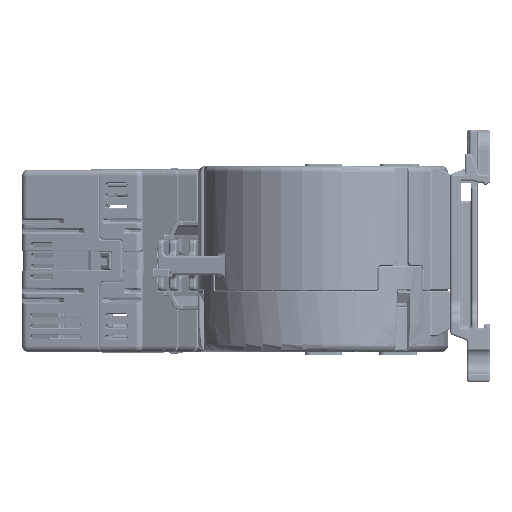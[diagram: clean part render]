
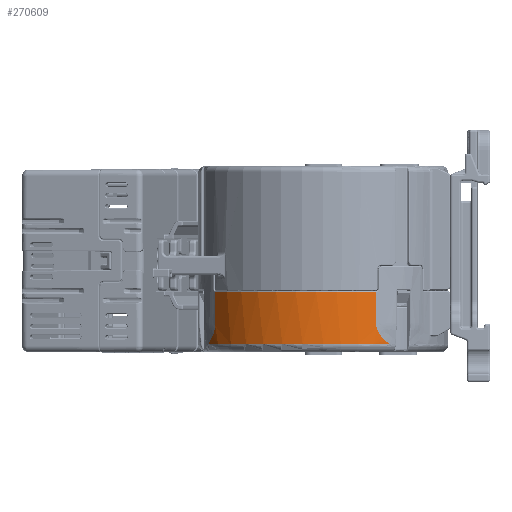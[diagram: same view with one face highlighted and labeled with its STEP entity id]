
A CAD part, left-side view. The second image highlights one B-rep face of the part: STEP entity #270609.
In plain terms, the highlighted cylindrical face has radius 30 mm (diameter 60 mm), a partial arc.
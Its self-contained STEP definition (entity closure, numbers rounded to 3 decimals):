
#4930 = CARTESIAN_POINT ( 'NONE',  ( -15.009, 25.976, -38.321 ) ) ;
#7404 = CARTESIAN_POINT ( 'NONE',  ( -13.726, 26.676, -40.948 ) ) ;
#17263 = CARTESIAN_POINT ( 'NONE',  ( -14.101, 26.48, -40.507 ) ) ;
#30631 = EDGE_CURVE ( 'NONE', #161591, #456532, #370813, .T. ) ;
#34933 = CARTESIAN_POINT ( 'NONE',  ( -15.041, 25.957, -37.708 ) ) ;
#46592 = CARTESIAN_POINT ( 'NONE',  ( -27.209, -12.636, -37.708 ) ) ;
#47827 = B_SPLINE_CURVE_WITH_KNOTS ( 'NONE', 3,
 ( #34933, #338886, #4930, #416231, #308891, #107264, #428459, #17263, #89488, #7404 ),
 .UNSPECIFIED., .F., .F.,
 ( 4, 2, 2, 2, 4 ),
 ( 0., 0.001, 0.002, 0.003, 0.004 ),
 .UNSPECIFIED. ) ;
#50574 = B_SPLINE_CURVE_WITH_KNOTS ( 'NONE', 3,
 ( #147166, #483496, #436993, #485975 ),
 .UNSPECIFIED., .F., .F.,
 ( 4, 4 ),
 ( 0., 0.003 ),
 .UNSPECIFIED. ) ;
#52996 = ORIENTED_EDGE ( 'NONE', *, *, #189924, .T. ) ;
#61115 = CARTESIAN_POINT ( 'NONE',  ( -27.209, -12.636, -38.016 ) ) ;
#66799 = AXIS2_PLACEMENT_3D ( 'NONE', #116479, #268415, #420449 ) ;
#77725 = CIRCLE ( 'NONE', #117337, 30. ) ;
#86989 = FACE_OUTER_BOUND ( 'NONE', #430764, .T. ) ;
#88600 = VERTEX_POINT ( 'NONE', #107544 ) ;
#89488 = CARTESIAN_POINT ( 'NONE',  ( -13.922, 26.575, -40.735 ) ) ;
#89705 = EDGE_CURVE ( 'NONE', #88600, #117583, #77725, .T. ) ;
#107264 = CARTESIAN_POINT ( 'NONE',  ( -14.564, 26.228, -39.754 ) ) ;
#107544 = CARTESIAN_POINT ( 'NONE',  ( -30., 0., -42.7 ) ) ;
#115147 = VECTOR ( 'NONE', #180609, 1000. ) ;
#116479 = CARTESIAN_POINT ( 'NONE',  ( 0., 0., -30.15 ) ) ;
#117337 = AXIS2_PLACEMENT_3D ( 'NONE', #420962, #231558, #383626 ) ;
#117583 = VERTEX_POINT ( 'NONE', #399868 ) ;
#128753 = CARTESIAN_POINT ( 'NONE',  ( -26.739, -13.603, -40.507 ) ) ;
#144190 = DIRECTION ( 'NONE',  ( 0., 0., 1. ) ) ;
#147166 = CARTESIAN_POINT ( 'NONE',  ( -25.447, -15.888, -42.7 ) ) ;
#153547 = CARTESIAN_POINT ( 'NONE',  ( -11.732, 27.611, -42.7 ) ) ;
#155625 = ORIENTED_EDGE ( 'NONE', *, *, #89705, .T. ) ;
#161591 = VERTEX_POINT ( 'NONE', #46592 ) ;
#169354 = DIRECTION ( 'NONE',  ( 1., 0., 0. ) ) ;
#170792 = LINE ( 'NONE', #215487, #115147 ) ;
#172752 = AXIS2_PLACEMENT_3D ( 'NONE', #174085, #325952, #478082 ) ;
#174085 = CARTESIAN_POINT ( 'NONE',  ( 0., 0., -44.7 ) ) ;
#178239 = CARTESIAN_POINT ( 'NONE',  ( -27.133, -12.798, -38.918 ) ) ;
#179253 = B_SPLINE_CURVE_WITH_KNOTS ( 'NONE', 3,
 ( #336452, #187153, #338908, #490966, #488506, #291635 ),
 .UNSPECIFIED., .F., .F.,
 ( 4, 2, 4 ),
 ( 0.013, 0.015, 0.016 ),
 .UNSPECIFIED. ) ;
#180346 = EDGE_CURVE ( 'NONE', #269363, #161591, #485685, .T. ) ;
#180609 = DIRECTION ( 'NONE',  ( 0., 0., -1. ) ) ;
#187153 = CARTESIAN_POINT ( 'NONE',  ( -13.425, 26.83, -41.273 ) ) ;
#189924 = EDGE_CURVE ( 'NONE', #387696, #88600, #440690, .T. ) ;
#194189 = AXIS2_PLACEMENT_3D ( 'NONE', #361206, #433551, #169354 ) ;
#197394 = ORIENTED_EDGE ( 'NONE', *, *, #239613, .T. ) ;
#206511 = VERTEX_POINT ( 'NONE', #384697 ) ;
#210751 = CARTESIAN_POINT ( 'NONE',  ( -27.209, -12.636, -37.708 ) ) ;
#215487 = CARTESIAN_POINT ( 'NONE',  ( -15.041, 25.957, -44.7 ) ) ;
#225699 = ORIENTED_EDGE ( 'NONE', *, *, #440911, .T. ) ;
#231558 = DIRECTION ( 'NONE',  ( 0., 0., 1. ) ) ;
#233086 = ORIENTED_EDGE ( 'NONE', *, *, #489803, .T. ) ;
#239613 = EDGE_CURVE ( 'NONE', #117583, #269363, #50574, .T. ) ;
#253864 = ORIENTED_EDGE ( 'NONE', *, *, #180346, .T. ) ;
#268415 = DIRECTION ( 'NONE',  ( 0., 0., -1. ) ) ;
#269363 = VERTEX_POINT ( 'NONE', #302774 ) ;
#270609 = ADVANCED_FACE ( 'NONE', ( #86989 ), #435820, .T. ) ;
#280529 = CARTESIAN_POINT ( 'NONE',  ( -26.902, -13.279, -40.02 ) ) ;
#291635 = CARTESIAN_POINT ( 'NONE',  ( -11.732, 27.611, -42.7 ) ) ;
#294780 = CARTESIAN_POINT ( 'NONE',  ( -13.726, 26.676, -40.948 ) ) ;
#302774 = CARTESIAN_POINT ( 'NONE',  ( -26.544, -13.979, -40.948 ) ) ;
#308891 = CARTESIAN_POINT ( 'NONE',  ( -14.794, 26.099, -39.206 ) ) ;
#314690 = CARTESIAN_POINT ( 'NONE',  ( -15.041, 25.957, -30.15 ) ) ;
#317876 = CARTESIAN_POINT ( 'NONE',  ( -26.544, -13.979, -40.948 ) ) ;
#320362 = CARTESIAN_POINT ( 'NONE',  ( -27.089, -12.893, -39.206 ) ) ;
#325952 = DIRECTION ( 'NONE',  ( 0., 0., 1. ) ) ;
#336452 = CARTESIAN_POINT ( 'NONE',  ( -13.726, 26.676, -40.948 ) ) ;
#338886 = CARTESIAN_POINT ( 'NONE',  ( -15.041, 25.957, -38.015 ) ) ;
#338908 = CARTESIAN_POINT ( 'NONE',  ( -13.112, 26.986, -41.585 ) ) ;
#361206 = CARTESIAN_POINT ( 'NONE',  ( 0., 0., -42.7 ) ) ;
#370813 = LINE ( 'NONE', #485436, #461857 ) ;
#383626 = DIRECTION ( 'NONE',  ( 1., 0., 0. ) ) ;
#384697 = CARTESIAN_POINT ( 'NONE',  ( -15.041, 25.957, -37.708 ) ) ;
#387696 = VERTEX_POINT ( 'NONE', #153547 ) ;
#390417 = EDGE_CURVE ( 'NONE', #401053, #206511, #170792, .T. ) ;
#399868 = CARTESIAN_POINT ( 'NONE',  ( -25.447, -15.888, -42.7 ) ) ;
#401053 = VERTEX_POINT ( 'NONE', #314690 ) ;
#406008 = ORIENTED_EDGE ( 'NONE', *, *, #30631, .T. ) ;
#416231 = CARTESIAN_POINT ( 'NONE',  ( -14.886, 26.046, -38.916 ) ) ;
#420449 = DIRECTION ( 'NONE',  ( 1., 0., 0. ) ) ;
#420962 = CARTESIAN_POINT ( 'NONE',  ( 0., 0., -42.7 ) ) ;
#428459 = CARTESIAN_POINT ( 'NONE',  ( -14.423, 26.306, -40.016 ) ) ;
#430764 = EDGE_LOOP ( 'NONE', ( #406008, #233086, #436402, #225699, #488709, #52996, #155625, #197394, #253864 ) ) ;
#432582 = CARTESIAN_POINT ( 'NONE',  ( -26.973, -13.133, -39.758 ) ) ;
#432917 = CIRCLE ( 'NONE', #66799, 30. ) ;
#433551 = DIRECTION ( 'NONE',  ( 0., 0., 1. ) ) ;
#435581 = CARTESIAN_POINT ( 'NONE',  ( -27.209, -12.636, -30.15 ) ) ;
#435820 = CYLINDRICAL_SURFACE ( 'NONE', #172752, 30. ) ;
#436402 = ORIENTED_EDGE ( 'NONE', *, *, #390417, .T. ) ;
#436993 = CARTESIAN_POINT ( 'NONE',  ( -26.229, -14.577, -41.599 ) ) ;
#438849 = VERTEX_POINT ( 'NONE', #294780 ) ;
#440690 = CIRCLE ( 'NONE', #194189, 30. ) ;
#440911 = EDGE_CURVE ( 'NONE', #206511, #438849, #47827, .T. ) ;
#456532 = VERTEX_POINT ( 'NONE', #435581 ) ;
#461857 = VECTOR ( 'NONE', #144190, 1000. ) ;
#466360 = EDGE_CURVE ( 'NONE', #438849, #387696, #179253, .T. ) ;
#470037 = CARTESIAN_POINT ( 'NONE',  ( -26.647, -13.783, -40.734 ) ) ;
#478082 = DIRECTION ( 'NONE',  ( 1., 0., 0. ) ) ;
#483496 = CARTESIAN_POINT ( 'NONE',  ( -25.87, -15.21, -42.201 ) ) ;
#485436 = CARTESIAN_POINT ( 'NONE',  ( -27.209, -12.636, -44.7 ) ) ;
#485685 = B_SPLINE_CURVE_WITH_KNOTS ( 'NONE', 3,
 ( #317876, #470037, #128753, #280529, #432582, #320362, #178239, #487117, #61115, #210751 ),
 .UNSPECIFIED., .F., .F.,
 ( 4, 2, 2, 2, 4 ),
 ( 0., 0.001, 0.002, 0.003, 0.004 ),
 .UNSPECIFIED. ) ;
#485975 = CARTESIAN_POINT ( 'NONE',  ( -26.544, -13.979, -40.948 ) ) ;
#487117 = CARTESIAN_POINT ( 'NONE',  ( -27.194, -12.669, -38.319 ) ) ;
#488506 = CARTESIAN_POINT ( 'NONE',  ( -12.1, 27.454, -42.45 ) ) ;
#488709 = ORIENTED_EDGE ( 'NONE', *, *, #466360, .T. ) ;
#489803 = EDGE_CURVE ( 'NONE', #456532, #401053, #432917, .T. ) ;
#490966 = CARTESIAN_POINT ( 'NONE',  ( -12.449, 27.297, -42.174 ) ) ;
